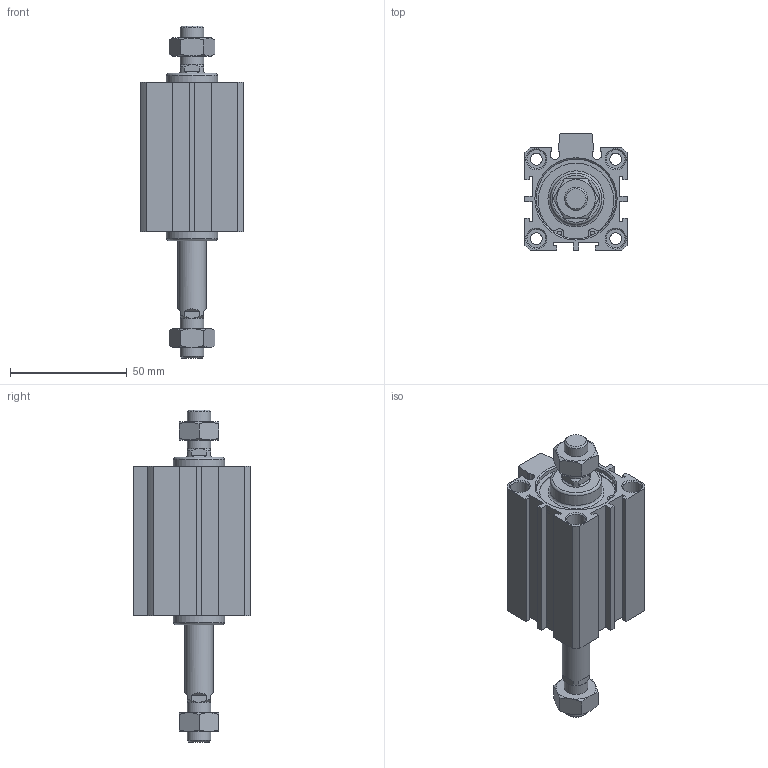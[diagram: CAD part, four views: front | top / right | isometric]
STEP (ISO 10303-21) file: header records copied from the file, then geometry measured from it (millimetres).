
FILE_DESCRIPTION((''),'2;1');
FILE_NAME('I:\3D電子目錄\氣缸\JDD\JDD-BS\JDD32-BS\JDD32x30-BS.stp','2007-02-27T14:05:09',('662F206'),(''),'Autodesk Inventor 10','Autodesk Inventor 10','');
FILE_SCHEMA(('AUTOMOTIVE_DESIGN { 1 0 10303 214 1 1 1 1 }'));
Length unit declared in the file: millimetre
Products named in the file (3): JDD32-BS; R 形環 35
Assembly tree (3 placements, depth 2):
  JDD32-BS
    JDD32-BS
    R 形環 35  x2
Bounding box: 44 x 50 x 142 mm (x, y, z)
Volume: 118044.6 mm3; surface area: 32234.3 mm2
Topology: 3 solids, 3 shells, 207 faces, 489 edges, 314 vertices
Faces by surface type: plane 112, cylinder 53, cone 38, bspline 2, torus 2
Full cylindrical faces by diameter (mm): 1.9 x4, 2.2 x2, 5.1 x4, 8 x8, 10 x4, 12 x1, 22 x2, 34 x4, 36 x2
Entity records: 5397 total; most frequent: CARTESIAN_POINT 1081, DIRECTION 894, ORIENTED_EDGE 802, EDGE_CURVE 401, AXIS2_PLACEMENT_3D 346, VERTEX_POINT 287, EDGE_LOOP 284, VECTOR 202
